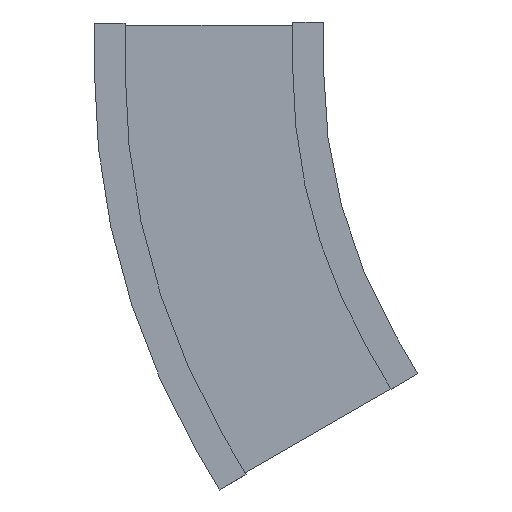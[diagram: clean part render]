
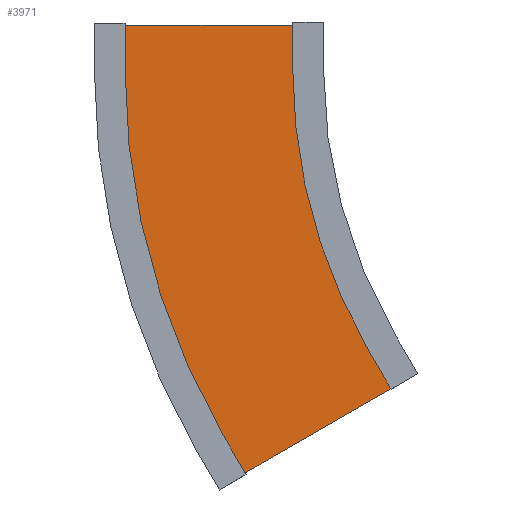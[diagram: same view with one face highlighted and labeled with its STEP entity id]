
A CAD part, front view. The second image highlights one B-rep face of the part: STEP entity #3971.
In plain terms, the highlighted planar face has unit normal (0, -1, 0).
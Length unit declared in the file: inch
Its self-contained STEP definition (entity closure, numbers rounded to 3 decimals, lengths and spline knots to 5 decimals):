
#3816=DIRECTION('',(0.,0.,1.));
#3817=VECTOR('',#3816,11.875);
#3818=CARTESIAN_POINT('',(-2.875,0.,-5.9375));
#3819=LINE('',#3818,#3817);
#3820=DIRECTION('',(1.,0.,0.));
#3821=VECTOR('',#3820,2.875);
#3822=CARTESIAN_POINT('',(-2.875,0.,5.9375));
#3823=LINE('',#3822,#3821);
#3824=CARTESIAN_POINT('',(0.,0.,42.11));
#3825=DIRECTION('',(0.,-1.,0.));
#3826=DIRECTION('',(0.,0.,-1.));
#3827=AXIS2_PLACEMENT_3D('',#3824,#3825,#3826);
#3829=DIRECTION('',(0.866,0.,0.5));
#3830=VECTOR('',#3829,2.875);
#3831=CARTESIAN_POINT('',(18.08625,0.,10.7837));
#3832=LINE('',#3831,#3830);
#3833=DIRECTION('',(0.5,0.,-0.866));
#3834=VECTOR('',#3833,11.875);
#3835=CARTESIAN_POINT('',(20.57607,0.,12.2212));
#3836=LINE('',#3835,#3834);
#3837=DIRECTION('',(-0.866,0.,-0.5));
#3838=VECTOR('',#3837,2.875);
#3839=CARTESIAN_POINT('',(26.51357,0.,1.93714));
#3840=LINE('',#3839,#3838);
#3841=CARTESIAN_POINT('',(0.,0.,42.11));
#3842=DIRECTION('',(0.,1.,0.));
#3843=DIRECTION('',(0.5,0.,-0.866));
#3844=AXIS2_PLACEMENT_3D('',#3841,#3842,#3843);
#3846=DIRECTION('',(-1.,0.,0.));
#3847=VECTOR('',#3846,2.875);
#3848=CARTESIAN_POINT('',(0.,0.,-5.9375));
#3849=LINE('',#3848,#3847);
#3916=CARTESIAN_POINT('',(-2.875,0.,-5.9375));
#3917=CARTESIAN_POINT('',(-2.875,0.,5.9375));
#3918=VERTEX_POINT('',#3916);
#3919=VERTEX_POINT('',#3917);
#3920=CARTESIAN_POINT('',(0.,0.,5.9375));
#3921=VERTEX_POINT('',#3920);
#3922=CARTESIAN_POINT('',(18.08625,0.,10.7837));
#3923=VERTEX_POINT('',#3922);
#3924=CARTESIAN_POINT('',(20.57607,0.,12.2212));
#3925=VERTEX_POINT('',#3924);
#3926=CARTESIAN_POINT('',(26.51357,0.,1.93714));
#3927=VERTEX_POINT('',#3926);
#3928=CARTESIAN_POINT('',(24.02375,0.,0.49964));
#3929=VERTEX_POINT('',#3928);
#3930=CARTESIAN_POINT('',(0.,0.,-5.9375));
#3931=VERTEX_POINT('',#3930);
#3948=CARTESIAN_POINT('',(0.,0.,0.));
#3949=DIRECTION('',(0.,1.,0.));
#3950=DIRECTION('',(1.,0.,0.));
#3951=AXIS2_PLACEMENT_3D('',#3948,#3949,#3950);
#3952=PLANE('',#3951);
#3954=ORIENTED_EDGE('',*,*,#3953,.T.);
#3956=ORIENTED_EDGE('',*,*,#3955,.T.);
#3958=ORIENTED_EDGE('',*,*,#3957,.T.);
#3960=ORIENTED_EDGE('',*,*,#3959,.T.);
#3962=ORIENTED_EDGE('',*,*,#3961,.T.);
#3964=ORIENTED_EDGE('',*,*,#3963,.T.);
#3966=ORIENTED_EDGE('',*,*,#3965,.T.);
#3968=ORIENTED_EDGE('',*,*,#3967,.T.);
#3969=EDGE_LOOP('',(#3954,#3956,#3958,#3960,#3962,#3964,#3966,#3968));
#3970=FACE_OUTER_BOUND('',#3969,.F.);
#3971=ADVANCED_FACE('',(#3970),#3952,.F.);
#3828=CIRCLE('',#3827,36.1725);
#3845=CIRCLE('',#3844,48.0475);
#3953=EDGE_CURVE('',#3918,#3919,#3819,.T.);
#3955=EDGE_CURVE('',#3919,#3921,#3823,.T.);
#3957=EDGE_CURVE('',#3921,#3923,#3828,.T.);
#3959=EDGE_CURVE('',#3923,#3925,#3832,.T.);
#3961=EDGE_CURVE('',#3925,#3927,#3836,.T.);
#3963=EDGE_CURVE('',#3927,#3929,#3840,.T.);
#3965=EDGE_CURVE('',#3929,#3931,#3845,.T.);
#3967=EDGE_CURVE('',#3931,#3918,#3849,.T.);
